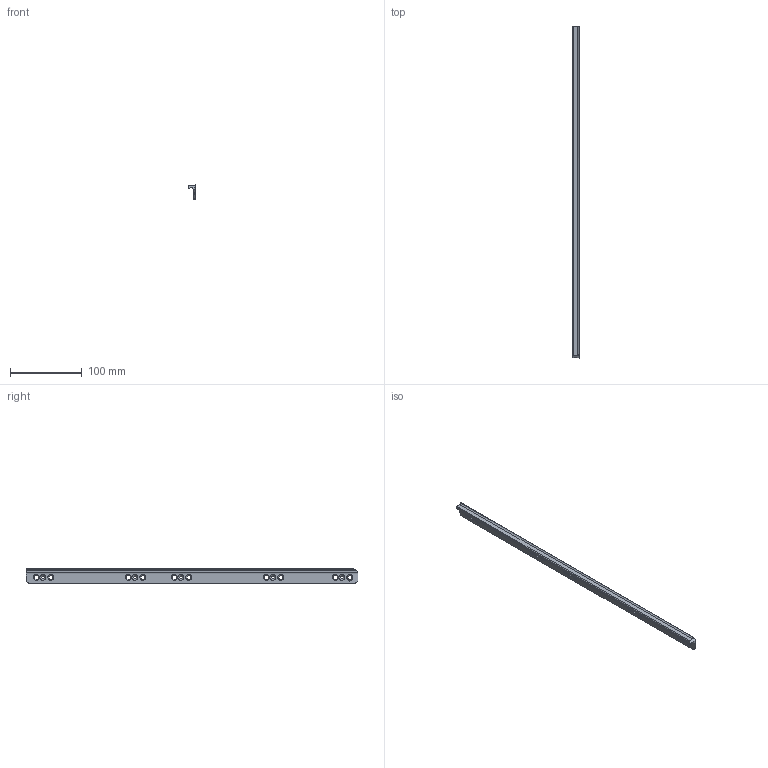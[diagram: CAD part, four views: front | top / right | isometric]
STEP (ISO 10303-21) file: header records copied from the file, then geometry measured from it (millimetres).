
FILE_DESCRIPTION (( 'STEP AP214' ), '1' );
FILE_NAME ('Zahnstange-rechts_NL450_K760018100.step', '2010-09-22T07:56:41', ( 'grass' ), ( '' ), 'SwSTEP 2.0', 'SolidWorks 2010', '' );
FILE_SCHEMA (( 'AUTOMOTIVE_DESIGN' ));
Length unit declared in the file: millimetre
Products named in the file (1): Zahnstange-rechts_NL450_K760018100
Bounding box: 9.5 x 462 x 20 mm (x, y, z)
Volume: 28374.8 mm3; surface area: 27817.3 mm2
Topology: 1 solids, 1 shells, 100 faces, 248 edges, 149 vertices
Faces by surface type: cylinder 54, cone 30, plane 16
Entity records: 3049 total; most frequent: DIRECTION 558, CARTESIAN_POINT 519, ORIENTED_EDGE 496, EDGE_CURVE 248, AXIS2_PLACEMENT_3D 216, VERTEX_POINT 149, EDGE_LOOP 129, LINE 126
